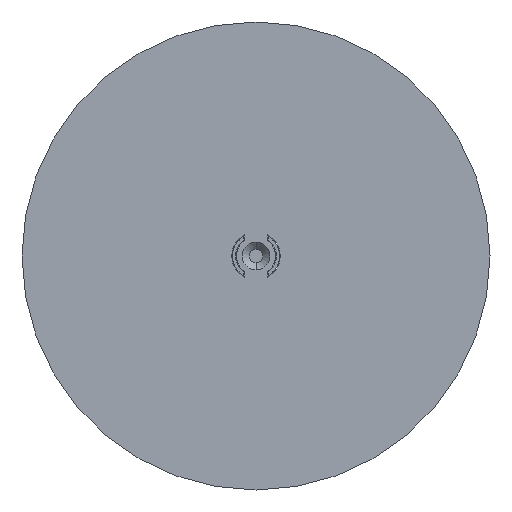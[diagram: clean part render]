
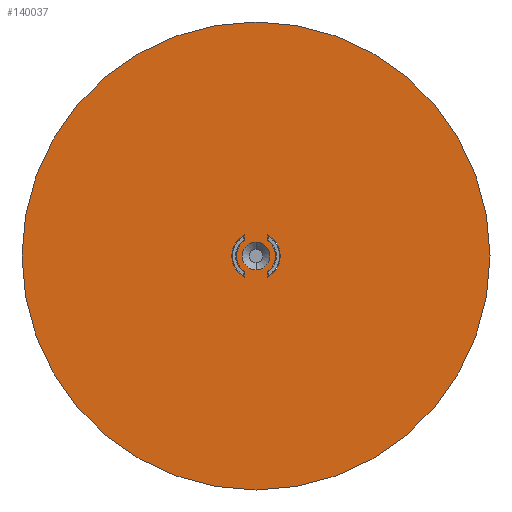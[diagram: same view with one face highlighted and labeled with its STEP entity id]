
A CAD part, front view. The second image highlights one B-rep face of the part: STEP entity #140037.
In plain terms, the highlighted planar face has unit normal (0, -1, 0).
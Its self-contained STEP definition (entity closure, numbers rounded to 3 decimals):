
#169 = AXIS2_PLACEMENT_3D ( 'NONE', #28344, #133873, #63490 ) ;
#258 = ORIENTED_EDGE ( 'NONE', *, *, #137638, .T. ) ;
#549 = CARTESIAN_POINT ( 'NONE',  ( -7.5, 0., -10. ) ) ;
#1358 = VERTEX_POINT ( 'NONE', #549 ) ;
#1742 = DIRECTION ( 'NONE',  ( 0., 0., -1. ) ) ;
#2296 = DIRECTION ( 'NONE',  ( 0., 0., -1. ) ) ;
#5279 = ORIENTED_EDGE ( 'NONE', *, *, #8730, .T. ) ;
#5944 = ORIENTED_EDGE ( 'NONE', *, *, #20902, .T. ) ;
#6165 = AXIS2_PLACEMENT_3D ( 'NONE', #132247, #84054, #2296 ) ;
#8730 = EDGE_CURVE ( 'NONE', #1358, #10120, #120560, .T. ) ;
#9016 = CARTESIAN_POINT ( 'NONE',  ( 0., 0., 0. ) ) ;
#10120 = VERTEX_POINT ( 'NONE', #29406 ) ;
#11050 = ORIENTED_EDGE ( 'NONE', *, *, #67198, .F. ) ;
#12455 = DIRECTION ( 'NONE',  ( 0., 0., 1. ) ) ;
#13211 = CARTESIAN_POINT ( 'NONE',  ( 7.5, 0., -13.565 ) ) ;
#17151 = DIRECTION ( 'NONE',  ( 0., 1., 0. ) ) ;
#18165 = EDGE_CURVE ( 'NONE', #57739, #79932, #129414, .T. ) ;
#19705 = FACE_BOUND ( 'NONE', #87042, .T. ) ;
#20902 = EDGE_CURVE ( 'NONE', #59335, #67446, #71888, .T. ) ;
#22351 = CARTESIAN_POINT ( 'NONE',  ( 0., 0., -8.96 ) ) ;
#23553 = VERTEX_POINT ( 'NONE', #106067 ) ;
#23866 = CARTESIAN_POINT ( 'NONE',  ( 0., 0., 0. ) ) ;
#26535 = DIRECTION ( 'NONE',  ( 0., 0., 1. ) ) ;
#27203 = DIRECTION ( 'NONE',  ( 0., 0., -1. ) ) ;
#28344 = CARTESIAN_POINT ( 'NONE',  ( 0., 0., 0. ) ) ;
#28366 = AXIS2_PLACEMENT_3D ( 'NONE', #9016, #66319, #102217 ) ;
#28799 = VERTEX_POINT ( 'NONE', #119459 ) ;
#29406 = CARTESIAN_POINT ( 'NONE',  ( -7.5, 0., -13.565 ) ) ;
#34297 = AXIS2_PLACEMENT_3D ( 'NONE', #131979, #76091, #27203 ) ;
#34845 = EDGE_CURVE ( 'NONE', #10120, #57739, #142595, .T. ) ;
#35114 = CARTESIAN_POINT ( 'NONE',  ( 0., 0., -150. ) ) ;
#39101 = EDGE_LOOP ( 'NONE', ( #142828, #104901, #5944, #258 ) ) ;
#44911 = FACE_OUTER_BOUND ( 'NONE', #147899, .T. ) ;
#47046 = VECTOR ( 'NONE', #1742, 1000. ) ;
#48589 = VERTEX_POINT ( 'NONE', #102024 ) ;
#49512 = DIRECTION ( 'NONE',  ( 0., 0., -1. ) ) ;
#51008 = CARTESIAN_POINT ( 'NONE',  ( -7.5, 0., -13.565 ) ) ;
#51137 = VERTEX_POINT ( 'NONE', #22351 ) ;
#51425 = CIRCLE ( 'NONE', #169, 150. ) ;
#52603 = ORIENTED_EDGE ( 'NONE', *, *, #18165, .T. ) ;
#52839 = ORIENTED_EDGE ( 'NONE', *, *, #86840, .F. ) ;
#57475 = DIRECTION ( 'NONE',  ( 0., 0., 1. ) ) ;
#57575 = LINE ( 'NONE', #13211, #84319 ) ;
#57739 = VERTEX_POINT ( 'NONE', #117903 ) ;
#59335 = VERTEX_POINT ( 'NONE', #104580 ) ;
#59618 = ORIENTED_EDGE ( 'NONE', *, *, #123943, .F. ) ;
#60096 = CARTESIAN_POINT ( 'NONE',  ( 0., 0., 0. ) ) ;
#61139 = CARTESIAN_POINT ( 'NONE',  ( 7.5, 0., 10. ) ) ;
#61680 = CARTESIAN_POINT ( 'NONE',  ( 0., 0., 0. ) ) ;
#63490 = DIRECTION ( 'NONE',  ( 0., 0., -1. ) ) ;
#66319 = DIRECTION ( 'NONE',  ( 0., 1., 0. ) ) ;
#67198 = EDGE_CURVE ( 'NONE', #48589, #51137, #97762, .T. ) ;
#67446 = VERTEX_POINT ( 'NONE', #136527 ) ;
#68819 = CIRCLE ( 'NONE', #144590, 150. ) ;
#71888 = CIRCLE ( 'NONE', #88998, 15.5 ) ;
#72718 = ORIENTED_EDGE ( 'NONE', *, *, #34845, .T. ) ;
#75962 = DIRECTION ( 'NONE',  ( 0., 0., 1. ) ) ;
#76091 = DIRECTION ( 'NONE',  ( 0., -1., 0. ) ) ;
#77023 = EDGE_CURVE ( 'NONE', #1358, #79932, #89466, .T. ) ;
#77370 = AXIS2_PLACEMENT_3D ( 'NONE', #60096, #128162, #94480 ) ;
#78962 = AXIS2_PLACEMENT_3D ( 'NONE', #61680, #144277, #26535 ) ;
#79932 = VERTEX_POINT ( 'NONE', #83736 ) ;
#80256 = EDGE_CURVE ( 'NONE', #28799, #140831, #68819, .T. ) ;
#80260 = EDGE_LOOP ( 'NONE', ( #95694, #5279, #72718, #52603 ) ) ;
#83736 = CARTESIAN_POINT ( 'NONE',  ( -7.5, 0., 10. ) ) ;
#84054 = DIRECTION ( 'NONE',  ( 0., -1., 0. ) ) ;
#84319 = VECTOR ( 'NONE', #12455, 1000. ) ;
#86840 = EDGE_CURVE ( 'NONE', #51137, #48589, #94105, .T. ) ;
#87042 = EDGE_LOOP ( 'NONE', ( #52839, #11050 ) ) ;
#88998 = AXIS2_PLACEMENT_3D ( 'NONE', #123368, #17151, #75962 ) ;
#89466 = CIRCLE ( 'NONE', #77370, 12.5 ) ;
#90751 = FACE_BOUND ( 'NONE', #80260, .T. ) ;
#92596 = DIRECTION ( 'NONE',  ( 0., 1., 0. ) ) ;
#94105 = CIRCLE ( 'NONE', #6165, 8.96 ) ;
#94480 = DIRECTION ( 'NONE',  ( 0., 0., 1. ) ) ;
#94805 = LINE ( 'NONE', #61139, #141125 ) ;
#95042 = CARTESIAN_POINT ( 'NONE',  ( 0., 0., 0. ) ) ;
#95694 = ORIENTED_EDGE ( 'NONE', *, *, #77023, .F. ) ;
#97762 = CIRCLE ( 'NONE', #34297, 8.96 ) ;
#102024 = CARTESIAN_POINT ( 'NONE',  ( 0., 0., 8.96 ) ) ;
#102217 = DIRECTION ( 'NONE',  ( 0., 0., 1. ) ) ;
#102954 = PLANE ( 'NONE',  #28366 ) ;
#104580 = CARTESIAN_POINT ( 'NONE',  ( 7.5, 0., 13.565 ) ) ;
#104901 = ORIENTED_EDGE ( 'NONE', *, *, #117510, .T. ) ;
#106067 = CARTESIAN_POINT ( 'NONE',  ( 7.5, 0., 10. ) ) ;
#112192 = FACE_BOUND ( 'NONE', #39101, .T. ) ;
#115742 = DIRECTION ( 'NONE',  ( 0., 0., -1. ) ) ;
#117510 = EDGE_CURVE ( 'NONE', #23553, #59335, #94805, .T. ) ;
#117903 = CARTESIAN_POINT ( 'NONE',  ( -7.5, 0., 13.565 ) ) ;
#117910 = CARTESIAN_POINT ( 'NONE',  ( -7.5, 0., 10. ) ) ;
#118762 = DIRECTION ( 'NONE',  ( 0., 1., 0. ) ) ;
#119459 = CARTESIAN_POINT ( 'NONE',  ( 0., 0., 150. ) ) ;
#120560 = LINE ( 'NONE', #51008, #139239 ) ;
#122986 = AXIS2_PLACEMENT_3D ( 'NONE', #23866, #92596, #57475 ) ;
#123368 = CARTESIAN_POINT ( 'NONE',  ( 0., 0., 0. ) ) ;
#123695 = VERTEX_POINT ( 'NONE', #131057 ) ;
#123943 = EDGE_CURVE ( 'NONE', #140831, #28799, #51425, .T. ) ;
#128162 = DIRECTION ( 'NONE',  ( 0., 1., 0. ) ) ;
#129414 = LINE ( 'NONE', #117910, #47046 ) ;
#131057 = CARTESIAN_POINT ( 'NONE',  ( 7.5, 0., -10. ) ) ;
#131979 = CARTESIAN_POINT ( 'NONE',  ( 0., 0., 0. ) ) ;
#132247 = CARTESIAN_POINT ( 'NONE',  ( 0., 0., 0. ) ) ;
#133873 = DIRECTION ( 'NONE',  ( 0., 1., 0. ) ) ;
#136527 = CARTESIAN_POINT ( 'NONE',  ( 7.5, 0., -13.565 ) ) ;
#137638 = EDGE_CURVE ( 'NONE', #67446, #123695, #57575, .T. ) ;
#139239 = VECTOR ( 'NONE', #49512, 1000. ) ;
#139963 = DIRECTION ( 'NONE',  ( 0., 0., 1. ) ) ;
#140037 = ADVANCED_FACE ( 'NONE', ( #44911, #19705, #112192, #90751 ), #102954, .F. ) ;
#140114 = CIRCLE ( 'NONE', #78962, 12.5 ) ;
#140831 = VERTEX_POINT ( 'NONE', #35114 ) ;
#141125 = VECTOR ( 'NONE', #139963, 1000. ) ;
#142595 = CIRCLE ( 'NONE', #122986, 15.5 ) ;
#142828 = ORIENTED_EDGE ( 'NONE', *, *, #148318, .F. ) ;
#144277 = DIRECTION ( 'NONE',  ( 0., 1., 0. ) ) ;
#144590 = AXIS2_PLACEMENT_3D ( 'NONE', #95042, #118762, #115742 ) ;
#147899 = EDGE_LOOP ( 'NONE', ( #59618, #150203 ) ) ;
#148318 = EDGE_CURVE ( 'NONE', #23553, #123695, #140114, .T. ) ;
#150203 = ORIENTED_EDGE ( 'NONE', *, *, #80256, .F. ) ;
